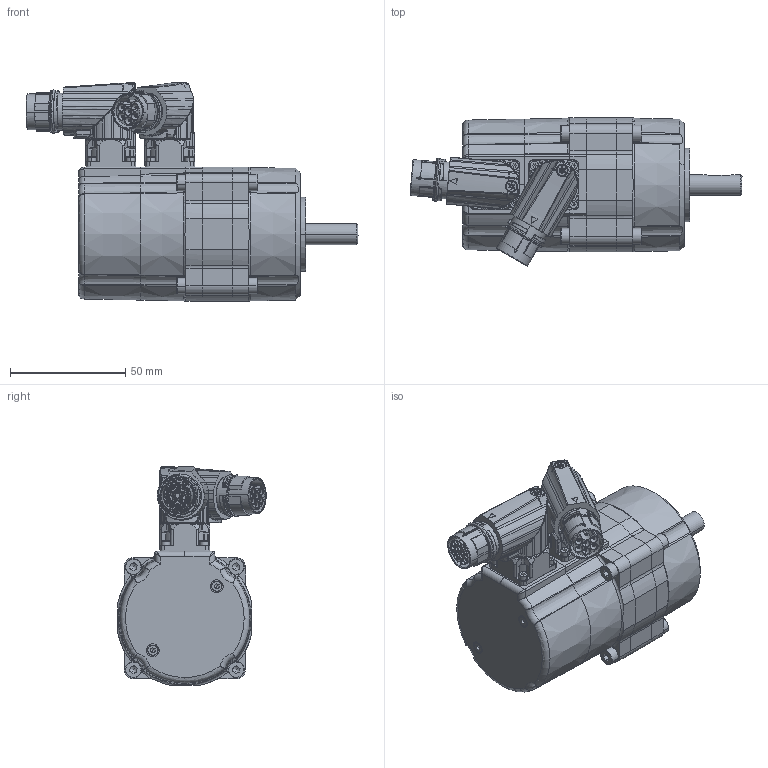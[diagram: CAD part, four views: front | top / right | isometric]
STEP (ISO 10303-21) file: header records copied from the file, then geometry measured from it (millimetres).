
FILE_DESCRIPTION(('CATIA V5 STEP Exchange'),'2;1');
FILE_NAME('C:\Documents and Settings\max\Documenti\sangallimotori\3d step\tg1\motore_DSM5_11.stp','2010-12-11T00:42:14+00:00',('none'),('none'),'CATIA Version 5 Release 10 (IN-8)','CATIA V5 STEP AP203',' none');
FILE_SCHEMA(('CONFIG_CONTROL_DESIGN'));
Assembly tree (33 placements, depth 0):
Bounding box: 143.77 x 64.2 x 94.55 mm (x, y, z)
Volume: 283542.4 mm3; surface area: 65143.7 mm2
Topology: 30 solids, 31 shells, 3906 faces, 12322 edges, 8545 vertices
Faces by surface type: cylinder 1455, plane 842, bspline 822, cone 358, torus 325, sphere 98, extrusion 6
Entity records: 180669 total; most frequent: CARTESIAN_POINT 97999, ORIENTED_EDGE 22138, EDGE_CURVE 11082, DIRECTION 9955, VERTEX_POINT 7795, B_SPLINE_CURVE_WITH_KNOTS 5236, AXIS2_PLACEMENT_3D 4834, EDGE_LOOP 3530
